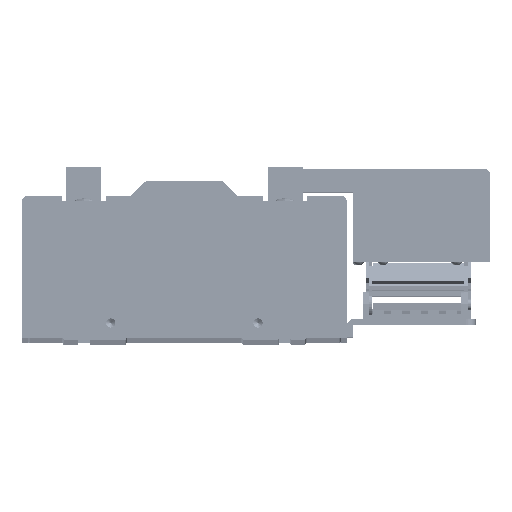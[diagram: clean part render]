
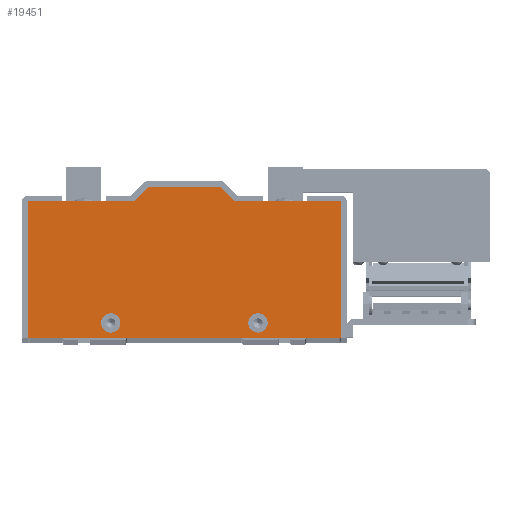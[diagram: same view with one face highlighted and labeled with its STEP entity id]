
A CAD part, top view. The second image highlights one B-rep face of the part: STEP entity #19451.
In plain terms, the highlighted planar face has unit normal (0, 0, 1).
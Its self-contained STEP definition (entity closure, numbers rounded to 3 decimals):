
#18998 = EDGE_CURVE ( 'NONE', #19072, #19572, #29330, .T. ) ;
#19043 = EDGE_CURVE ( 'NONE', #19287, #19044, #30170, .T. ) ;
#19044 = VERTEX_POINT ( 'NONE', #30441 ) ;
#19065 = EDGE_CURVE ( 'NONE', #19066, #19072, #30357, .T. ) ;
#19066 = VERTEX_POINT ( 'NONE', #30351 ) ;
#19072 = VERTEX_POINT ( 'NONE', #30315 ) ;
#19179 = VERTEX_POINT ( 'NONE', #38724 ) ;
#19185 = EDGE_CURVE ( 'NONE', #19179, #19186, #38691, .T. ) ;
#19186 = VERTEX_POINT ( 'NONE', #38679 ) ;
#19287 = VERTEX_POINT ( 'NONE', #44672 ) ;
#19332 = ORIENTED_EDGE ( 'NONE', *, *, #19477, .T. ) ;
#19333 = ORIENTED_EDGE ( 'NONE', *, *, #19509, .T. ) ;
#19449 = EDGE_CURVE ( 'NONE', #19507, #19066, #44895, .T. ) ;
#19451 = ADVANCED_FACE ( 'NONE', ( #44891, #44889, #44887 ), #44881, .T. ) ;
#19453 = EDGE_LOOP ( 'NONE', ( #19454, #19486 ) ) ;
#19454 = ORIENTED_EDGE ( 'NONE', *, *, #19455, .F. ) ;
#19455 = EDGE_CURVE ( 'NONE', #19186, #19179, #44873, .T. ) ;
#19472 = VERTEX_POINT ( 'NONE', #44827 ) ;
#19477 = EDGE_CURVE ( 'NONE', #19545, #19472, #44805, .T. ) ;
#19486 = ORIENTED_EDGE ( 'NONE', *, *, #19185, .F. ) ;
#19487 = EDGE_LOOP ( 'NONE', ( #19489, #19491 ) ) ;
#19489 = ORIENTED_EDGE ( 'NONE', *, *, #19490, .F. ) ;
#19490 = EDGE_CURVE ( 'NONE', #19044, #19287, #45752, .T. ) ;
#19491 = ORIENTED_EDGE ( 'NONE', *, *, #19043, .F. ) ;
#19493 = EDGE_LOOP ( 'NONE', ( #19495, #19497, #19500, #19501, #19504, #19332, #19333, #19739 ) ) ;
#19495 = ORIENTED_EDGE ( 'NONE', *, *, #19065, .T. ) ;
#19497 = ORIENTED_EDGE ( 'NONE', *, *, #18998, .T. ) ;
#19500 = ORIENTED_EDGE ( 'NONE', *, *, #19619, .T. ) ;
#19501 = ORIENTED_EDGE ( 'NONE', *, *, #19553, .T. ) ;
#19504 = ORIENTED_EDGE ( 'NONE', *, *, #19540, .T. ) ;
#19507 = VERTEX_POINT ( 'NONE', #45810 ) ;
#19509 = EDGE_CURVE ( 'NONE', #19472, #19507, #45806, .T. ) ;
#19526 = VERTEX_POINT ( 'NONE', #45716 ) ;
#19540 = EDGE_CURVE ( 'NONE', #19526, #19545, #45683, .T. ) ;
#19545 = VERTEX_POINT ( 'NONE', #45655 ) ;
#19553 = EDGE_CURVE ( 'NONE', #19613, #19526, #45619, .T. ) ;
#19572 = VERTEX_POINT ( 'NONE', #45557 ) ;
#19613 = VERTEX_POINT ( 'NONE', #45372 ) ;
#19619 = EDGE_CURVE ( 'NONE', #19572, #19613, #45356, .T. ) ;
#19739 = ORIENTED_EDGE ( 'NONE', *, *, #19449, .T. ) ;
#29325 = DIRECTION ( 'NONE',  ( 1., 0., 0. ) ) ;
#29326 = VECTOR ( 'NONE', #29325, 1000. ) ;
#29327 = CARTESIAN_POINT ( 'NONE',  ( -85., -37., 9.525 ) ) ;
#29330 = LINE ( 'NONE', #29327, #29326 ) ;
#30165 = DIRECTION ( 'NONE',  ( 1., 0., 0. ) ) ;
#30167 = DIRECTION ( 'NONE',  ( 0., 0., 1. ) ) ;
#30168 = CARTESIAN_POINT ( 'NONE',  ( 40., -29., 9.525 ) ) ;
#30169 = AXIS2_PLACEMENT_3D ( 'NONE', #30168, #30167, #30165 ) ;
#30170 = CIRCLE ( 'NONE', #30169, 5.25 ) ;
#30315 = CARTESIAN_POINT ( 'NONE',  ( -85., -37., 9.525 ) ) ;
#30351 = CARTESIAN_POINT ( 'NONE',  ( -85., 37., 9.525 ) ) ;
#30352 = DIRECTION ( 'NONE',  ( 0., -1., 0. ) ) ;
#30353 = VECTOR ( 'NONE', #30352, 1000. ) ;
#30354 = CARTESIAN_POINT ( 'NONE',  ( -85., 37., 9.525 ) ) ;
#30357 = LINE ( 'NONE', #30354, #30353 ) ;
#30441 = CARTESIAN_POINT ( 'NONE',  ( 45.25, -29., 9.525 ) ) ;
#38679 = CARTESIAN_POINT ( 'NONE',  ( -34.75, -29., 9.525 ) ) ;
#38682 = DIRECTION ( 'NONE',  ( 1., 0., 0. ) ) ;
#38685 = DIRECTION ( 'NONE',  ( 0., 0., 1. ) ) ;
#38687 = CARTESIAN_POINT ( 'NONE',  ( -40., -29., 9.525 ) ) ;
#38689 = AXIS2_PLACEMENT_3D ( 'NONE', #38687, #38685, #38682 ) ;
#38691 = CIRCLE ( 'NONE', #38689, 5.25 ) ;
#38724 = CARTESIAN_POINT ( 'NONE',  ( -45.25, -29., 9.525 ) ) ;
#44672 = CARTESIAN_POINT ( 'NONE',  ( 34.75, -29., 9.525 ) ) ;
#44800 = DIRECTION ( 'NONE',  ( -1., 0., 0. ) ) ;
#44802 = VECTOR ( 'NONE', #44800, 1000. ) ;
#44804 = CARTESIAN_POINT ( 'NONE',  ( -19.5, 45., 9.525 ) ) ;
#44805 = LINE ( 'NONE', #44804, #44802 ) ;
#44827 = CARTESIAN_POINT ( 'NONE',  ( -19.5, 45., 9.525 ) ) ;
#44866 = DIRECTION ( 'NONE',  ( 1., 0., 0. ) ) ;
#44868 = DIRECTION ( 'NONE',  ( 0., 0., 1. ) ) ;
#44869 = CARTESIAN_POINT ( 'NONE',  ( -40., -29., 9.525 ) ) ;
#44871 = AXIS2_PLACEMENT_3D ( 'NONE', #44869, #44868, #44866 ) ;
#44873 = CIRCLE ( 'NONE', #44871, 5.25 ) ;
#44877 = DIRECTION ( 'NONE',  ( 1., 0., 0. ) ) ;
#44878 = DIRECTION ( 'NONE',  ( 0., 0., 1. ) ) ;
#44879 = CARTESIAN_POINT ( 'NONE',  ( -85., 37., 9.525 ) ) ;
#44880 = AXIS2_PLACEMENT_3D ( 'NONE', #44879, #44878, #44877 ) ;
#44881 = PLANE ( 'NONE',  #44880 ) ;
#44887 = FACE_OUTER_BOUND ( 'NONE', #19493, .T. ) ;
#44889 = FACE_BOUND ( 'NONE', #19487, .T. ) ;
#44891 = FACE_BOUND ( 'NONE', #19453, .T. ) ;
#44892 = DIRECTION ( 'NONE',  ( -1., 0., 0. ) ) ;
#44893 = VECTOR ( 'NONE', #44892, 1000. ) ;
#44894 = CARTESIAN_POINT ( 'NONE',  ( -85., 37., 9.525 ) ) ;
#44895 = LINE ( 'NONE', #44894, #44893 ) ;
#45353 = DIRECTION ( 'NONE',  ( 0., 1., 0. ) ) ;
#45354 = VECTOR ( 'NONE', #45353, 1000. ) ;
#45355 = CARTESIAN_POINT ( 'NONE',  ( 85., 37., 9.525 ) ) ;
#45356 = LINE ( 'NONE', #45355, #45354 ) ;
#45372 = CARTESIAN_POINT ( 'NONE',  ( 85., 37., 9.525 ) ) ;
#45418 = DIRECTION ( 'NONE',  ( 1., 0., 0. ) ) ;
#45419 = DIRECTION ( 'NONE',  ( 0., 0., 1. ) ) ;
#45421 = CARTESIAN_POINT ( 'NONE',  ( 40., -29., 9.525 ) ) ;
#45557 = CARTESIAN_POINT ( 'NONE',  ( 85., -37., 9.525 ) ) ;
#45616 = DIRECTION ( 'NONE',  ( -1., 0., 0. ) ) ;
#45617 = VECTOR ( 'NONE', #45616, 1000. ) ;
#45618 = CARTESIAN_POINT ( 'NONE',  ( 27.5, 37., 9.525 ) ) ;
#45619 = LINE ( 'NONE', #45618, #45617 ) ;
#45655 = CARTESIAN_POINT ( 'NONE',  ( 19.5, 45., 9.525 ) ) ;
#45678 = DIRECTION ( 'NONE',  ( -0.707, 0.707, 0. ) ) ;
#45680 = VECTOR ( 'NONE', #45678, 1000. ) ;
#45682 = CARTESIAN_POINT ( 'NONE',  ( 19.5, 45., 9.525 ) ) ;
#45683 = LINE ( 'NONE', #45682, #45680 ) ;
#45716 = CARTESIAN_POINT ( 'NONE',  ( 27.5, 37., 9.525 ) ) ;
#45744 = AXIS2_PLACEMENT_3D ( 'NONE', #45421, #45419, #45418 ) ;
#45752 = CIRCLE ( 'NONE', #45744, 5.25 ) ;
#45801 = DIRECTION ( 'NONE',  ( -0.707, -0.707, 0. ) ) ;
#45803 = VECTOR ( 'NONE', #45801, 1000. ) ;
#45804 = CARTESIAN_POINT ( 'NONE',  ( -27.5, 37., 9.525 ) ) ;
#45806 = LINE ( 'NONE', #45804, #45803 ) ;
#45810 = CARTESIAN_POINT ( 'NONE',  ( -27.5, 37., 9.525 ) ) ;
